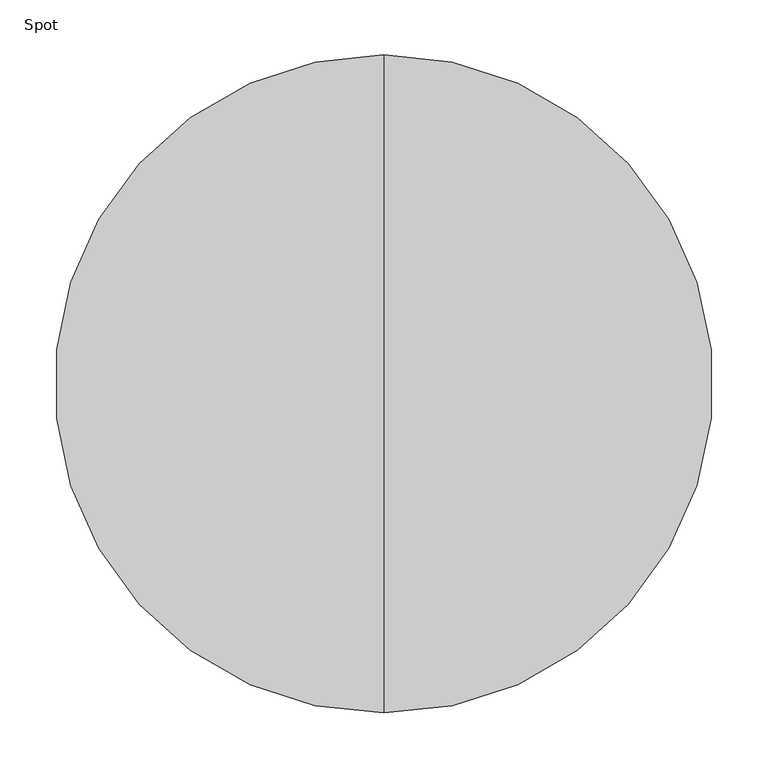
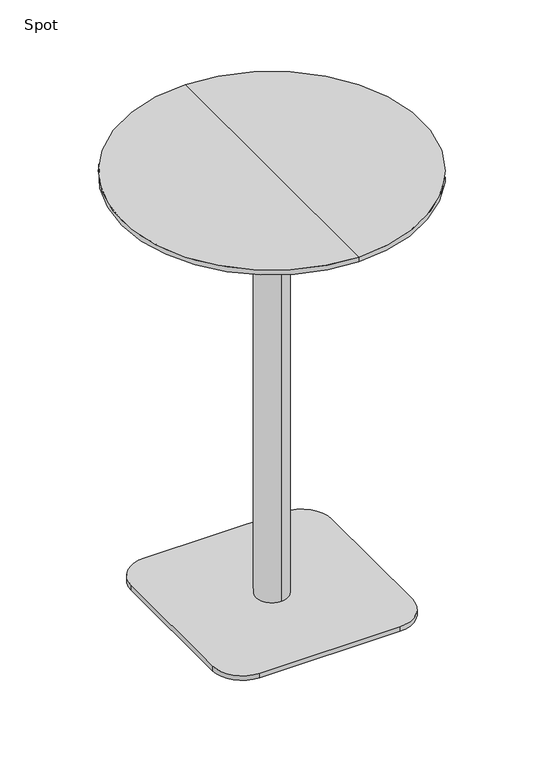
"""IFC4 building model written with IfcOpenShell, lengths in millimetres: furniture geometry, Spot : Bø60x90s."""

from ifc_helpers import new_model, si_unit, point, frame, frame_2d, origin, origin_with_axes, place, context, project, spatial, polyline, circle_curve, trimmed, segment, composite_curve, outline, extrude, source, transform, mapped, element, save
from ifc_brep_helpers import plane_surface, cylinder_surface, revolved_surface, advanced_brep


def spot_855ccbda(model_context):
    return source(origin(), model_context, "Body", "SolidModel", [
        advanced_brep(
        [(0.0, 300.0, 900.0), (0.0, -300.0, 900.0), (0.0, 0.0, 900.0), (0.0, 300.0, 890.25), (0.0, -300.0, 890.25), (0.0, 254.2823776, 878.0), (0.0, -254.2823776, 878.0), (0.0, 0.0, 878.0)],
        [
            (0, 1, circle_curve(frame((0.0, 0.0, 900.0), z_axis=(0.0, 0.0, 1.0), x_axis=(0.0, -1.0, 0.0)), 300.0)),
            (1, 2),
            (2, 0),
            (1, 0, circle_curve(frame((0.0, 0.0, 900.0), z_axis=(0.0, 0.0, 1.0), x_axis=(0.0, -1.0, 0.0)), 300.0)),
            (3, 4, circle_curve(frame((0.0, 0.0, 890.25), z_axis=(0.0, 0.0, 1.0), x_axis=(0.0, -1.0, 0.0)), 300.0)),
            (4, 1),
            (0, 3),
            (4, 3, circle_curve(frame((0.0, 0.0, 890.25), z_axis=(0.0, 0.0, 1.0), x_axis=(0.0, -1.0, 0.0)), 300.0)),
            (5, 6, circle_curve(frame((0.0, 0.0, 878.0), z_axis=(0.0, 0.0, 1.0), x_axis=(0.0, -1.0, 0.0)), 254.2823776)),
            (6, 4),
            (3, 5),
            (6, 5, circle_curve(frame((0.0, 0.0, 878.0), z_axis=(0.0, 0.0, 1.0), x_axis=(0.0, -1.0, 0.0)), 254.2823776)),
            (7, 6),
            (5, 7),
        ],
        [
            plane_surface(frame((0.0, 0.0, 900.0), z_axis=(0.0, 0.0, 1.0), x_axis=(0.0, -1.0, 0.0))),
            cylinder_surface(frame((0.0, 0.0, 980.0), z_axis=(0.0, 0.0, -1.0), x_axis=(0.0, -1.0, 0.0)), 300.0),
            revolved_surface(polyline([(0.0, -300.0, 890.25), (0.0, -254.2823776, 878.0)]), (0.0, 0.0, 980.0), (0.0, 0.0, -1.0)),
            plane_surface(frame((0.0, 0.0, 878.0), z_axis=(0.0, 0.0, -1.0), x_axis=(0.0, -1.0, 0.0))),
        ],
        [
            (0, [[1, 2, 3]]),
            (0, [[4, -3, -2]]),
            (1, [[5, 6, -1, 7]]),
            (1, [[8, -7, -4, -6]]),
            (2, [[9, 10, -5, 11]]),
            (2, [[12, -11, -8, -10]]),
            (3, [[13, -9, 14]]),
            (3, [[-14, -12, -13]]),
        ],
    ),
        extrude(outline(composite_curve([segment(trimmed(circle_curve(frame_2d((140.0, 140.0)), 60.0), [point((140.0, 200.0))], [point((200.0, 140.0))], False, "CARTESIAN"), True, "CONTINUOUS"), segment(polyline([(200.0, 140.0), (200.0, -140.0)]), True, "CONTINUOUS"), segment(trimmed(circle_curve(frame_2d((140.0, -140.0)), 60.0), [point((200.0, -140.0))], [point((140.0, -200.0))], False, "CARTESIAN"), True, "CONTINUOUS"), segment(polyline([(140.0, -200.0), (-140.0, -200.0)]), True, "CONTINUOUS"), segment(trimmed(circle_curve(frame_2d((-140.0, -140.0)), 60.0), [point((-140.0, -200.0))], [point((-200.0, -140.0))], False, "CARTESIAN"), True, "CONTINUOUS"), segment(polyline([(-200.0, -140.0), (-200.0, 140.0)]), True, "CONTINUOUS"), segment(trimmed(circle_curve(frame_2d((-140.0, 140.0)), 60.0), [point((-200.0, 140.0))], [point((-140.0, 200.0))], False, "CARTESIAN"), True, "CONTINUOUS"), segment(polyline([(-140.0, 200.0), (140.0, 200.0)]), True, "CONTINUOUS")], self_intersect=False)), origin_with_axes(), (0.0, 0.0, 1.0), 10.0),
        advanced_brep(
        [(0.0, 32.0, 10.0), (0.0, -32.0, 10.0), (0.0, -32.0, 847.406916), (0.0, 32.0, 847.406916), (0.0, 0.0, 10.0), (0.0, 150.0, 878.0), (0.0, -150.0, 878.0), (0.0, 0.0, 878.0), (0.0, 150.0, 866.7213673), (0.0, -150.0, 866.7213673)],
        [
            (0, 1, circle_curve(frame((0.0, 0.0, 10.0), z_axis=(0.0, 0.0, 1.0), x_axis=(0.0, -1.0, 0.0)), 32.0)),
            (1, 2),
            (2, 3, circle_curve(frame((0.0, 0.0, 847.406916), z_axis=(0.0, 0.0, -1.0), x_axis=(0.0, -1.0, 0.0)), 32.0)),
            (3, 0),
            (1, 0, circle_curve(frame((0.0, 0.0, 10.0), z_axis=(0.0, 0.0, 1.0), x_axis=(0.0, -1.0, 0.0)), 32.0)),
            (3, 2, circle_curve(frame((0.0, 0.0, 847.406916), z_axis=(0.0, 0.0, -1.0), x_axis=(0.0, -1.0, 0.0)), 32.0)),
            (4, 1),
            (0, 4),
            (5, 6, circle_curve(frame((0.0, 0.0, 878.0), z_axis=(0.0, 0.0, 1.0), x_axis=(0.0, -1.0, 0.0)), 150.0)),
            (6, 7),
            (7, 5),
            (6, 5, circle_curve(frame((0.0, 0.0, 878.0), z_axis=(0.0, 0.0, 1.0), x_axis=(0.0, -1.0, 0.0)), 150.0)),
            (8, 9, circle_curve(frame((0.0, 0.0, 866.7213673), z_axis=(0.0, 0.0, 1.0), x_axis=(0.0, -1.0, 0.0)), 150.0)),
            (9, 6),
            (5, 8),
            (9, 8, circle_curve(frame((0.0, 0.0, 866.7213673), z_axis=(0.0, 0.0, 1.0), x_axis=(0.0, -1.0, 0.0)), 150.0)),
            (2, 9),
            (8, 3),
        ],
        [
            cylinder_surface(frame((0.0, 0.0, 1240.0), z_axis=(0.0, 0.0, -1.0), x_axis=(0.0, -1.0, 0.0)), 32.0),
            plane_surface(frame((0.0, 0.0, 10.0), z_axis=(0.0, 0.0, -1.0), x_axis=(0.0, -1.0, 0.0))),
            plane_surface(frame((0.0, 0.0, 878.0), z_axis=(0.0, 0.0, 1.0), x_axis=(0.0, -1.0, 0.0))),
            cylinder_surface(frame((0.0, 0.0, 1240.0), z_axis=(0.0, 0.0, -1.0), x_axis=(0.0, -1.0, 0.0)), 150.0),
            revolved_surface(polyline([(0.0, -150.0, 866.7213673), (0.0, -32.0, 847.406916)]), (0.0, 0.0, 1240.0), (0.0, 0.0, -1.0)),
        ],
        [
            (0, [[1, 2, 3, 4]]),
            (0, [[5, -4, 6, -2]]),
            (1, [[7, -1, 8]]),
            (1, [[-8, -5, -7]]),
            (2, [[9, 10, 11]]),
            (2, [[12, -11, -10]]),
            (3, [[13, 14, -9, 15]]),
            (3, [[16, -15, -12, -14]]),
            (4, [[-3, 17, -13, 18]]),
            (4, [[-6, -18, -16, -17]]),
        ],
    ),
        extrude(outline(polyline([(0.0, 0.0), (-20.0, 0.0), (-20.0, 20.0), (0.0, 20.0), (0.0, 0.0)])), origin_with_axes(), (0.0, 0.0, 1.0), 10.0),
    ])


if __name__ == "__main__":
    model = new_model("IFC4")
    model_context = context("Model", 3, world=origin())
    ifc_project = project(units=[si_unit("LENGTHUNIT", "METRE", prefix="MILLI")], contexts=[model_context])
    site = spatial("IfcSite", under=ifc_project)
    building = spatial("IfcBuilding", under=site)
    placement = place(None, origin())
    spot_shape = spot_855ccbda(model_context)
    element("IfcFurniture", 1, ObjectType="Spot : Bø60x90s", at=placement, inside=building, context=model_context, shape_type="MappedRepresentation", body=[
        mapped(spot_shape, transform((0.0, 0.0, 0.0), x_axis=(1.0, 0.0, 0.0), y_axis=(0.0, 1.0, 0.0), z_axis=(0.0, 0.0, 1.0))),
    ])
    save(model, "model.ifc")
